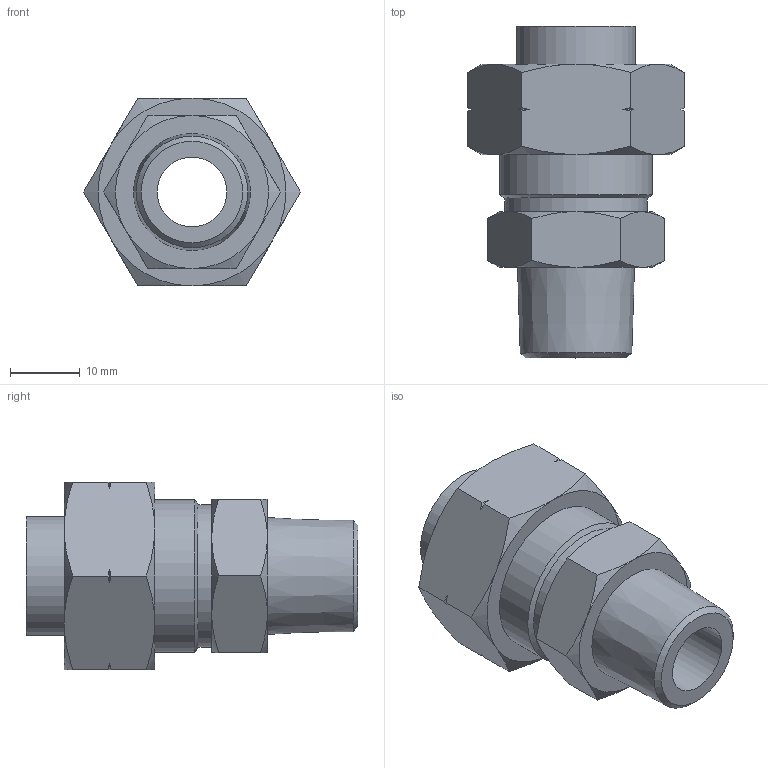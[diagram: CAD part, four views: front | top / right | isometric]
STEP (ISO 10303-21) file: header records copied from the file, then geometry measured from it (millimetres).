
FILE_DESCRIPTION((''),'2;1');
FILE_NAME('D:\INVENTOR\[New Inventor]\CDC Products 3D Ass''y\Two-Touch Fittings\Metric\CC\CC16-13--03.stp','2009-02-25T17:35:02',('Microsoft'),(''),'Autodesk Inventor 2008','Autodesk Inventor 2008','');
FILE_SCHEMA(('AUTOMOTIVE_DESIGN { 1 0 10303 214 1 1 1 1 }'));
Length unit declared in the file: millimetre
Products named in the file (1): CC16-13--03
Bounding box: 31.18 x 47.67 x 27 mm (x, y, z)
Volume: 12397.5 mm3; surface area: 7424.9 mm2
Topology: 1 solids, 1 shells, 66 faces, 146 edges, 88 vertices
Faces by surface type: cone 39, plane 20, cylinder 6, torus 1
Full cylindrical faces by diameter (mm): 10 x1, 12.7 x1, 16.2 x1, 17.1 x1, 20.5 x1, 22 x1
Entity records: 1700 total; most frequent: CARTESIAN_POINT 435, ORIENTED_EDGE 272, DIRECTION 244, EDGE_CURVE 136, AXIS2_PLACEMENT_3D 113, VERTEX_POINT 88, EDGE_LOOP 84, FACE_OUTER_BOUND 66
